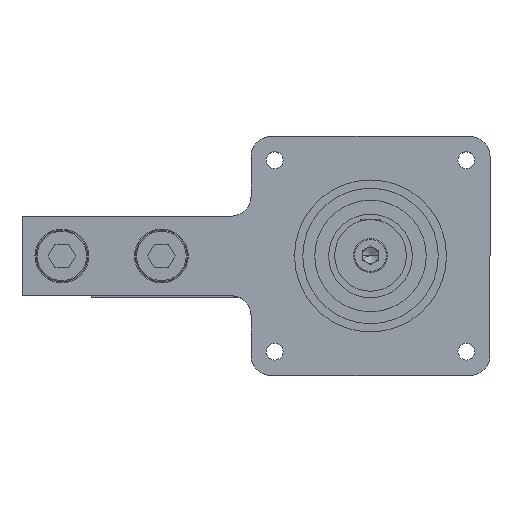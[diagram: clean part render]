
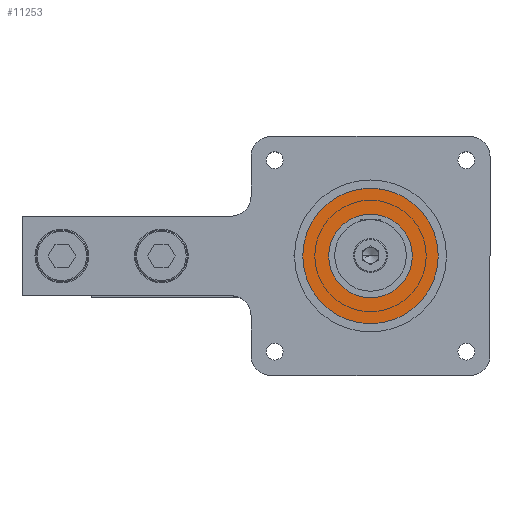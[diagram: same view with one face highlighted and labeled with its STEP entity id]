
A CAD part, top view. The second image highlights one B-rep face of the part: STEP entity #11253.
In plain terms, the highlighted planar face has unit normal (0, 0, 1).
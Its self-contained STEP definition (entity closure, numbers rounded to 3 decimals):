
#199 = VERTEX_POINT ( 'NONE', #6983 ) ;
#256 = DIRECTION ( 'NONE',  ( 0., 0., 1. ) ) ;
#333 = AXIS2_PLACEMENT_3D ( 'NONE', #5682, #11439, #12568 ) ;
#400 = DIRECTION ( 'NONE',  ( 1., 0., 0. ) ) ;
#858 = EDGE_LOOP ( 'NONE', ( #7546, #13856 ) ) ;
#1208 = AXIS2_PLACEMENT_3D ( 'NONE', #14365, #6497, #4340 ) ;
#1226 = DIRECTION ( 'NONE',  ( 1., 0., 0. ) ) ;
#2116 = VERTEX_POINT ( 'NONE', #7889 ) ;
#2213 = DIRECTION ( 'NONE',  ( 0., 0., 1. ) ) ;
#2262 = CARTESIAN_POINT ( 'NONE',  ( 0., 0., 5.5 ) ) ;
#2276 = CIRCLE ( 'NONE', #8893, 17. ) ;
#2428 = ORIENTED_EDGE ( 'NONE', *, *, #13944, .F. ) ;
#3230 = CARTESIAN_POINT ( 'NONE',  ( 0., 0., 5.5 ) ) ;
#3232 = EDGE_CURVE ( 'NONE', #5860, #8633, #6182, .T. ) ;
#3839 = EDGE_CURVE ( 'NONE', #8633, #5860, #2276, .T. ) ;
#4263 = ORIENTED_EDGE ( 'NONE', *, *, #10244, .F. ) ;
#4340 = DIRECTION ( 'NONE',  ( -1., 0., 0. ) ) ;
#5142 = PLANE ( 'NONE',  #1208 ) ;
#5179 = EDGE_LOOP ( 'NONE', ( #4263, #2428 ) ) ;
#5272 = CIRCLE ( 'NONE', #6019, 10.5 ) ;
#5682 = CARTESIAN_POINT ( 'NONE',  ( 0., 0., 5.5 ) ) ;
#5860 = VERTEX_POINT ( 'NONE', #11472 ) ;
#6019 = AXIS2_PLACEMENT_3D ( 'NONE', #2262, #2213, #1226 ) ;
#6182 = CIRCLE ( 'NONE', #11966, 17. ) ;
#6497 = DIRECTION ( 'NONE',  ( 0., 0., -1. ) ) ;
#6983 = CARTESIAN_POINT ( 'NONE',  ( 10.5, 0., 5.5 ) ) ;
#7546 = ORIENTED_EDGE ( 'NONE', *, *, #3232, .T. ) ;
#7706 = DIRECTION ( 'NONE',  ( 1., 0., 0. ) ) ;
#7810 = DIRECTION ( 'NONE',  ( 0., 0., 1. ) ) ;
#7889 = CARTESIAN_POINT ( 'NONE',  ( -10.5, 0., 5.5 ) ) ;
#8324 = FACE_OUTER_BOUND ( 'NONE', #858, .T. ) ;
#8633 = VERTEX_POINT ( 'NONE', #10737 ) ;
#8893 = AXIS2_PLACEMENT_3D ( 'NONE', #14360, #7810, #7706 ) ;
#9348 = FACE_BOUND ( 'NONE', #5179, .T. ) ;
#10244 = EDGE_CURVE ( 'NONE', #199, #2116, #12177, .T. ) ;
#10737 = CARTESIAN_POINT ( 'NONE',  ( -17., 0., 5.5 ) ) ;
#11253 = ADVANCED_FACE ( 'NONE', ( #9348, #8324 ), #5142, .F. ) ;
#11439 = DIRECTION ( 'NONE',  ( 0., 0., 1. ) ) ;
#11472 = CARTESIAN_POINT ( 'NONE',  ( 17., 0., 5.5 ) ) ;
#11966 = AXIS2_PLACEMENT_3D ( 'NONE', #3230, #256, #400 ) ;
#12177 = CIRCLE ( 'NONE', #333, 10.5 ) ;
#12568 = DIRECTION ( 'NONE',  ( 1., 0., 0. ) ) ;
#13856 = ORIENTED_EDGE ( 'NONE', *, *, #3839, .T. ) ;
#13944 = EDGE_CURVE ( 'NONE', #2116, #199, #5272, .T. ) ;
#14360 = CARTESIAN_POINT ( 'NONE',  ( 0., 0., 5.5 ) ) ;
#14365 = CARTESIAN_POINT ( 'NONE',  ( -17., 0., 5.5 ) ) ;
